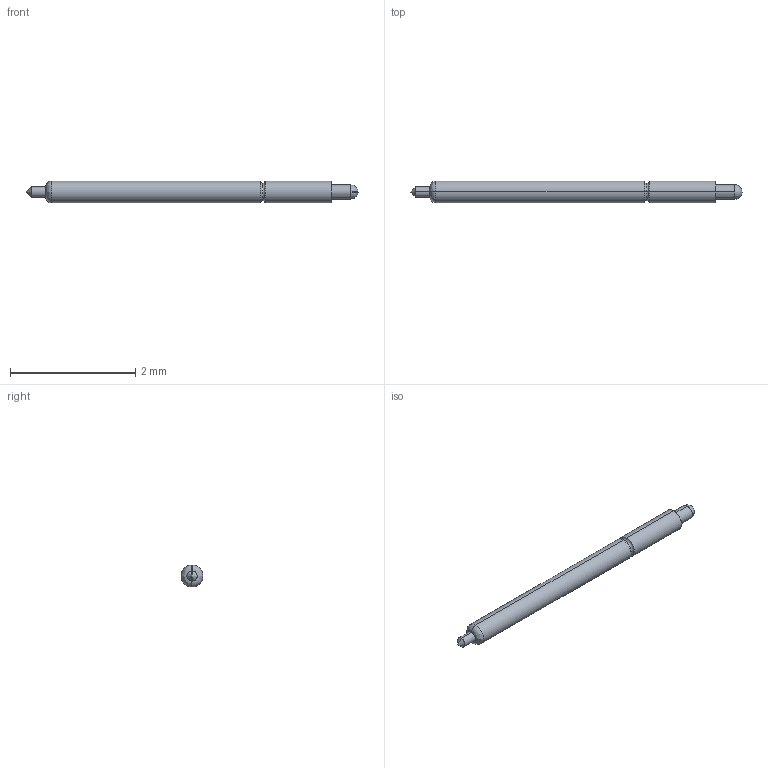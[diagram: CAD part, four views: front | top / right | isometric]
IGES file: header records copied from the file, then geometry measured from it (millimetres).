
Start section: SolidWorks IGES file using analytic representation for surfaces
Global section: file name: Z:\probe solid model mockups\Solidworks models\IGES Files\CSP5-18 IGES files\CSP5-18JB Full.IGS; native system: SolidWorks 2006 by SolidWorks Corporation; preprocessor: SolidWorks 2006 by SolidWorks Corporation; author: tsakatani; date: 080108.142207; units: inch
Bounding box: 5.31 x 0.35 x 0.35 mm (x, y, z)
Surface area: 5.6 mm2 (no closed solid volume)
Topology: 0 solids, 0 shells, 19 faces, 108 edges, 104 vertices
Faces by surface type: revolution 12, bspline 7
